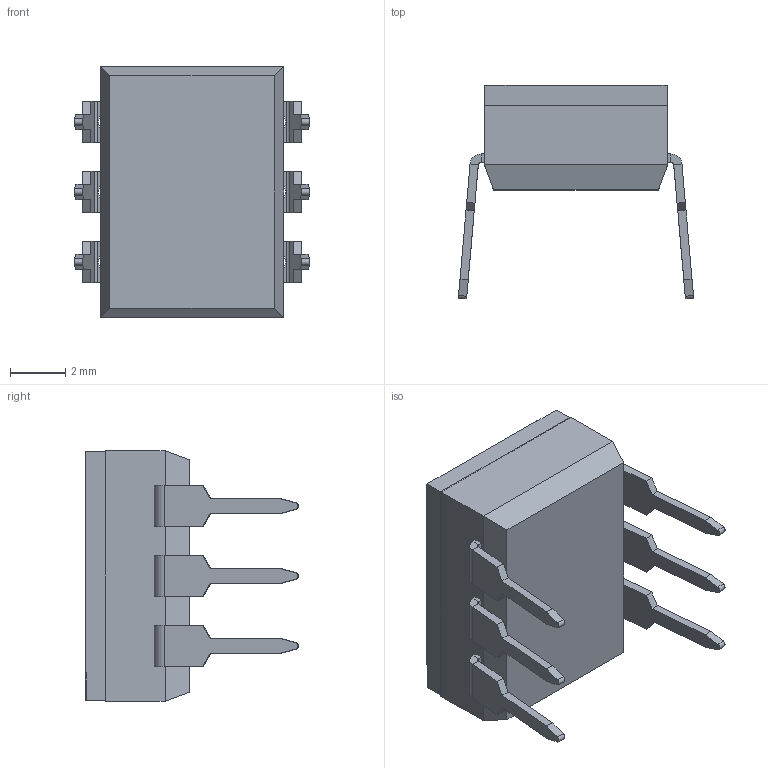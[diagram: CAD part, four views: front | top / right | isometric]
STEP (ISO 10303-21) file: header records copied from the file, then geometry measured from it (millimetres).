
FILE_DESCRIPTION (( 'STEP AP203' ), '1' );
FILE_NAME ('209-3LPS.STEP', '2019-05-24T07:02:57', ( '' ), ( '' ), 'SwSTEP 2.0', 'SolidWorks 2019', '' );
FILE_SCHEMA (( 'CONFIG_CONTROL_DESIGN' ));
Length unit declared in the file: millimetre
Products named in the file (5): 209-02-203 mold housing for 209; 209-40-203 for 209; 219-56-001; 209-83-001-06-01 lead frame; 209-3LPS
Assembly tree (8 placements, depth 2):
  209-3LPS
    209-02-203 mold housing for 209
    209-40-203 for 209
    219-56-001  x3
    209-83-001-06-01 lead frame  x3
Bounding box: 8.55 x 7.76 x 9.1 mm (x, y, z)
Volume: 197.9 mm3; surface area: 660.6 mm2
Topology: 11 solids, 11 shells, 548 faces, 1415 edges, 906 vertices
Faces by surface type: plane 315, bspline 155, cylinder 66, sphere 12
Entity records: 20070 total; most frequent: CARTESIAN_POINT 11241, ORIENTED_EDGE 1958, DIRECTION 1173, EDGE_CURVE 979, VERTEX_POINT 642, LINE 625, VECTOR 625, EDGE_LOOP 411
